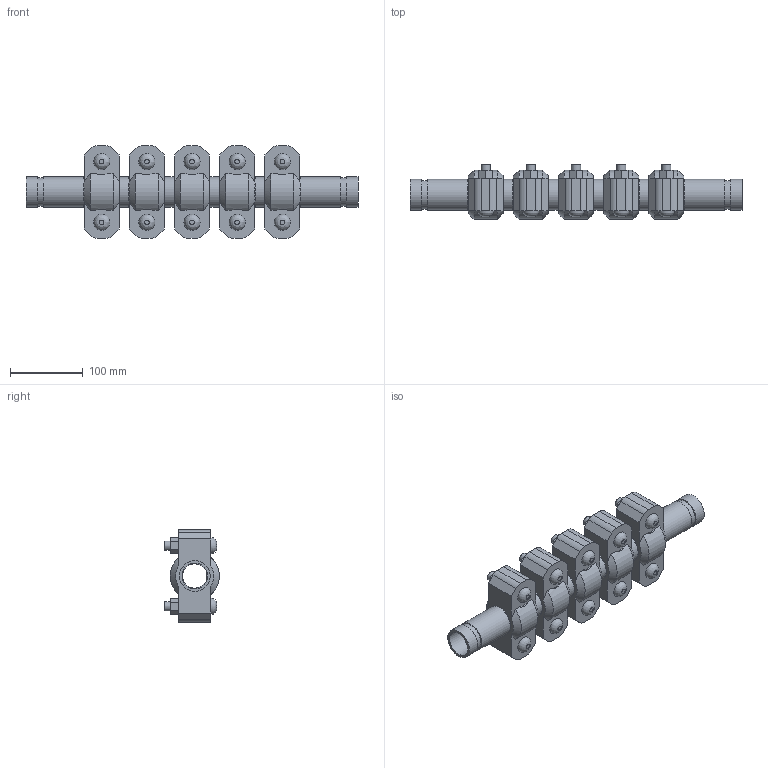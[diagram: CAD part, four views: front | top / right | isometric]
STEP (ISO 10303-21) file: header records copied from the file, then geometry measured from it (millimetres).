
FILE_DESCRIPTION(/* description */ ('VIC EXPANSION JOINT 5 COUPLINGS EXPANDED STYLE 155 (OGS)','CAx-IF Rec.Pracs.---Representation and Presentation of Product Manufacturing Information (PMI)---4.0---2014-10-13'),/* implementation_level */ '2;1');
FILE_NAME(/* name */ 'C:\Users\kkamble\AppData\Roaming\Autodesk\ApplicationPlugins\Victaulic.Temp\A557\Victaulic_IPS_Expansion Joint_Expanded_5 Couplings_Style 155 (OGS)_1.25 (32).stp',/* time_stamp */ '2021-06-27T00:02:08+02:00',/* author */ ('kkamble'),/* organization */ ('Victaulic'),/* preprocessor_version */ 'ST-DEVELOPER v17.2',/* originating_system */ 'Autodesk Inventor 2019',/* authorisation */ '');
FILE_SCHEMA (('AP242_MANAGED_MODEL_BASED_3D_ENGINEERING_MIM_LF { 1 0 10303 442 1 1 4 }'));
Length unit declared in the file: inch
Products named in the file (4): 155-01.25; Nipple-01.25; Nipple-01.25_1; 077-01.25
Assembly tree (11 placements, depth 2):
  155-01.25
    Nipple-01.25  x2
    Nipple-01.25_1  x4
    077-01.25  x5
Bounding box: 455.42 x 74.93 x 127 mm (x, y, z)
Volume: 1329258.2 mm3; surface area: 327661.3 mm2
Topology: 11 solids, 21 shells, 377 faces, 905 edges, 634 vertices
Faces by surface type: plane 216, cylinder 131, cone 20, bspline 10
Full cylindrical faces by diameter (mm): 12.7 x20, 14.605 x10, 33.274 x5, 35.052 x6, 38.989 x12, 42.164 x28
Entity records: 2969 total; most frequent: CARTESIAN_POINT 555, DIRECTION 485, ORIENTED_EDGE 410, EDGE_CURVE 205, AXIS2_PLACEMENT_3D 194, VERTEX_POINT 146, EDGE_LOOP 111, LINE 97
